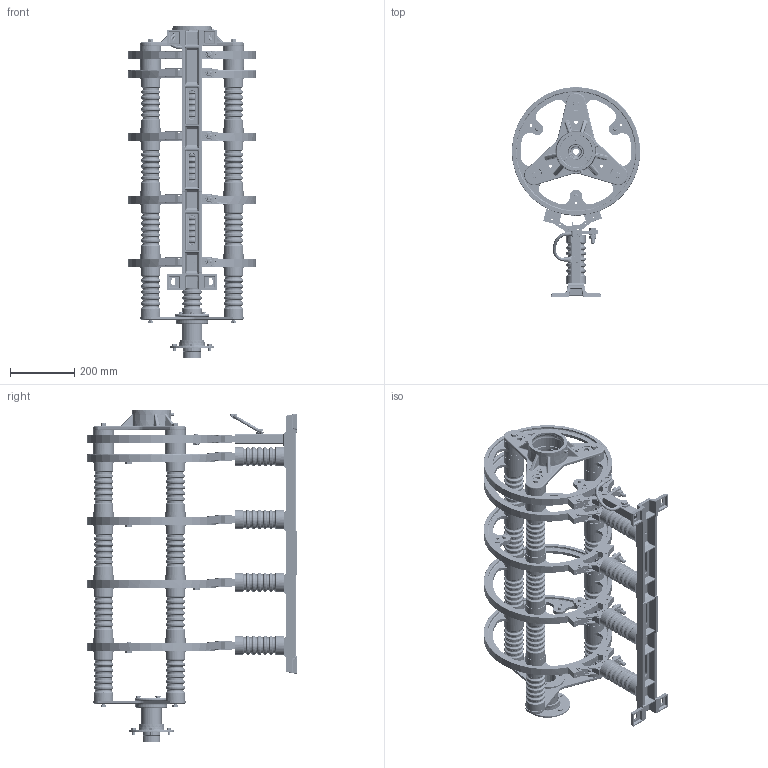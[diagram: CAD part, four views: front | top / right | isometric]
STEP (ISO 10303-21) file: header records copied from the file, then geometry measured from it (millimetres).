
FILE_DESCRIPTION(/* description */ (''),/* implementation_level */ '2;1');
FILE_NAME(/* name */ 'K:\MANDARIC\77437 SINGLE.stp',/* time_stamp */ '2017-12-01T11:08:35+01:00',/* author */ ('milman01'),/* organization */ ('Hillmar Industries Ltd.'),/* preprocessor_version */ 'ST-DEVELOPER v16.1',/* originating_system */ 'Autodesk Inventor 2016',/* authorisation */ '');
FILE_SCHEMA (('AUTOMOTIVE_DESIGN { 1 0 10303 214 3 1 1 }'));
Products named in the file (1): 77437 PSR-15KV-5B-400A SLIPRING ASSEMBLY
Bounding box: 400 x 653 x 1034.6 mm (x, y, z)
Volume: 14169884.7 mm3; surface area: 2086837.5 mm2
Topology: 3 solids, 32 shells, 4153 faces, 9780 edges, 5934 vertices
Faces by surface type: plane 1370, cylinder 1066, bspline 618, cone 537, torus 466, sphere 96
Full cylindrical faces by diameter (mm): 4 x20, 4.5 x20, 4.917 x4, 5 x50, 6.6 x4, 6.647 x3, 7.323 x7, 8 x7, 8.376 x46, 9 x5, 9.188 x4, 10 x12, 10.106 x1, 10.5 x9, 11 x16, 11.053 x6, 11.4 x7, 12 x16, 13 x8, 13.5 x2, 15.4 x4, 17.2 x6, 17.5 x3, 18 x1, 19 x5, 23 x13, 24 x10, 30 x1, 44.45 x6, 44.46 x6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
Entity records: 119928 total; most frequent: CARTESIAN_POINT 30132, DIRECTION 16960, ORIENTED_EDGE 16424, EDGE_CURVE 8213, AXIS2_PLACEMENT_3D 6760, EDGE_LOOP 5933, VERTEX_POINT 5694, STYLED_ITEM 4154
